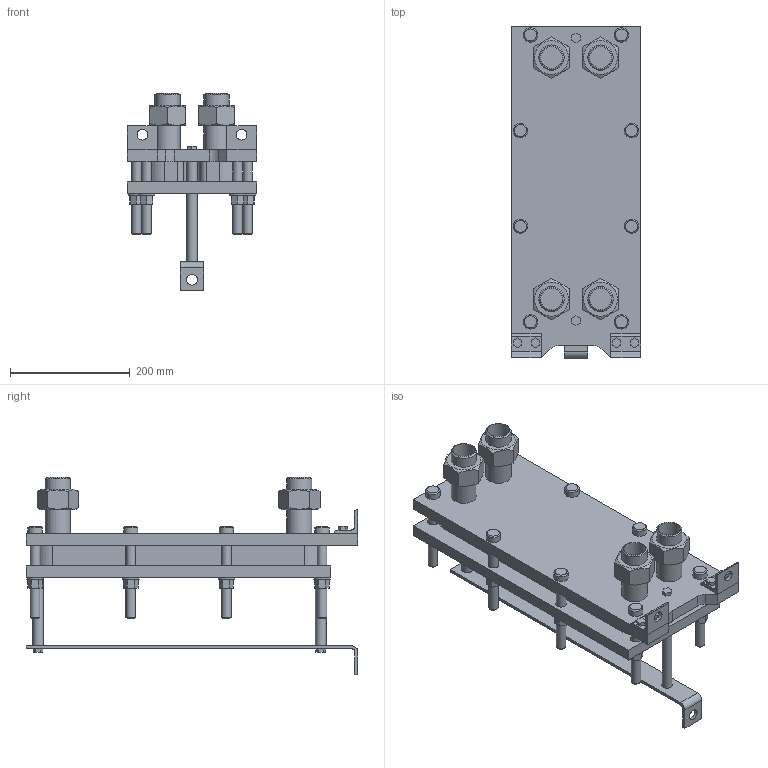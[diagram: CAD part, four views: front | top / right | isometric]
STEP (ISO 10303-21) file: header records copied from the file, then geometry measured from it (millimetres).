
FILE_DESCRIPTION(/* description */ (''),/* implementation_level */ '2;1');
FILE_NAME(/* name */ 'C:\Users\zhuro\Desktop\ENCO\TO\ЭН-004\ЭН-0,5-004-11-1.stp',/* time_stamp */ '2022-06-06T10:44:46+03:00',/* author */ ('zhuro'),/* organization */ (''),/* preprocessor_version */ 'ST-DEVELOPER v18.1',/* originating_system */ 'Autodesk Inventor 2022',/* authorisation */ '');
FILE_SCHEMA (('AUTOMOTIVE_DESIGN { 1 0 10303 214 3 1 1 }'));
Length unit declared in the file: millimetre
Products named in the file (1): ЭН-0,5-004-11-1
Bounding box: 216 x 555 x 329.8 mm (x, y, z)
Volume: 7999452.6 mm3; surface area: 1033016.1 mm2
Topology: 40 solids, 40 shells, 403 faces, 865 edges, 574 vertices
Faces by surface type: plane 272, cylinder 103, cone 28
Full cylindrical faces by diameter (mm): 10 x4, 16 x16, 18 x29, 20 x2, 24 x8, 28 x8, 36.3 x5, 42.3 x9
Entity records: 11137 total; most frequent: CARTESIAN_POINT 1939, DIRECTION 1879, ORIENTED_EDGE 1730, EDGE_CURVE 865, AXIS2_PLACEMENT_3D 658, VERTEX_POINT 574, LINE 563, VECTOR 563
